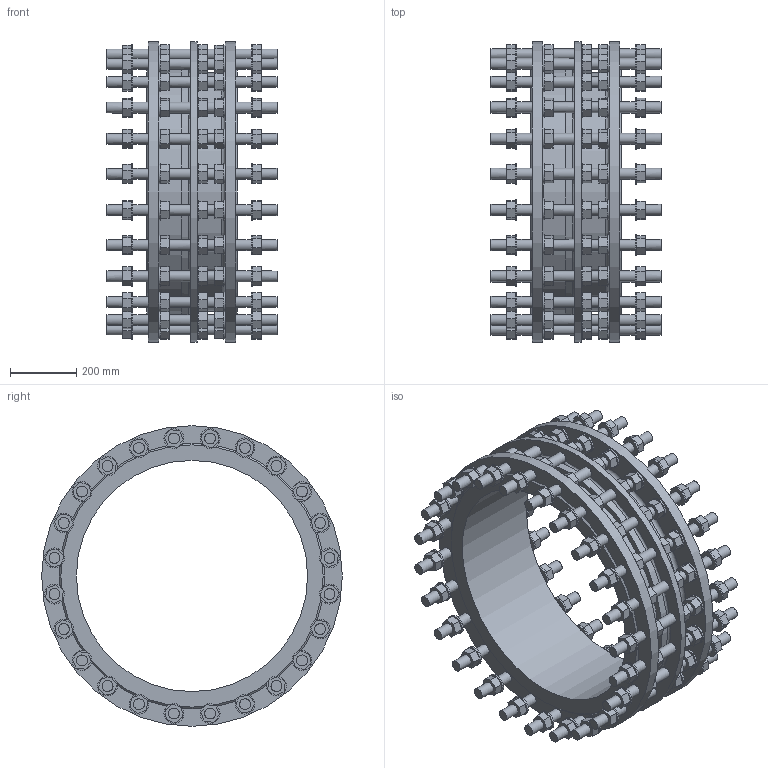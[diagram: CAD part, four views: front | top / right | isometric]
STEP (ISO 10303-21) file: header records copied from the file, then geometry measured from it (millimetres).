
FILE_DESCRIPTION (( 'STEP AP203' ), '1' );
FILE_NAME ('O_265_910_DN700_1XXXXX00_L=275_REV01.step', '2024-10-11T10:45:19', ( '' ), ( '' ), 'SwSTEP 2.0', 'SolidWorks 2022', '' );
FILE_SCHEMA (( 'CONFIG_CONTROL_DESIGN' ));
Length unit declared in the file: millimetre
Products named in the file (1): O_265_910_DN700_1XXXXX00_L=275_REV01
Bounding box: 515 x 910 x 910 mm (x, y, z)
Volume: 48468463.7 mm3; surface area: 4097823.5 mm2
Topology: 1 solids, 1 shells, 1381 faces, 3334 edges, 2278 vertices
Faces by surface type: plane 1104, cylinder 272, cone 3, torus 2
Full cylindrical faces by diameter (mm): 33 x144, 60 x120, 700 x1, 724 x1, 764 x1, 910 x3
Entity records: 38036 total; most frequent: CARTESIAN_POINT 7085, DIRECTION 6181, ORIENTED_EDGE 5732, EDGE_CURVE 2866, LINE 2267, VECTOR 2267, VERTEX_POINT 2085, EDGE_LOOP 2077
